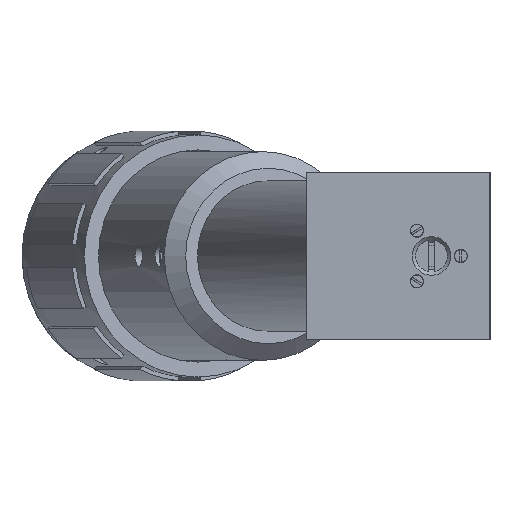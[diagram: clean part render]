
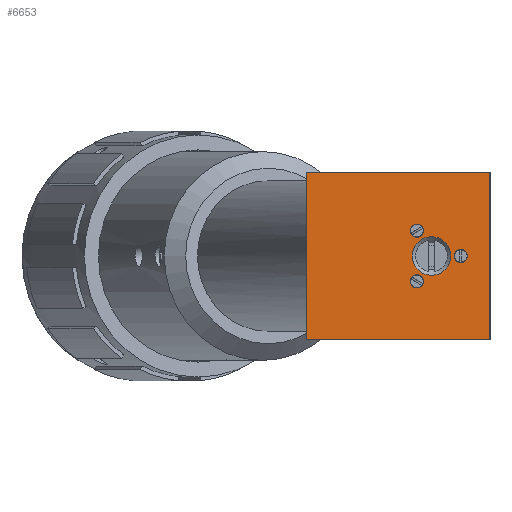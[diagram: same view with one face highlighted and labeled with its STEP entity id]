
A CAD part, left-side view. The second image highlights one B-rep face of the part: STEP entity #6653.
In plain terms, the highlighted planar face has unit normal (-1, 0, 0).
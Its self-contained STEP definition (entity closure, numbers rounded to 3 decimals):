
#6360=CARTESIAN_POINT('',(-36.125,1.139,20.0));
#6361=VERTEX_POINT('',#6360);
#6362=CARTESIAN_POINT('',(-36.125,23.139,20.0));
#6363=VERTEX_POINT('',#6362);
#6364=CARTESIAN_POINT('',(-36.125,1.139,20.0));
#6365=DIRECTION('',(0.0,1.0,0.0));
#6366=VECTOR('',#6365,22.0);
#6367=LINE('',#6364,#6366);
#6368=EDGE_CURVE('',#6361,#6363,#6367,.T.);
#6414=CARTESIAN_POINT('',(-36.125,1.139,0.0));
#6415=VERTEX_POINT('',#6414);
#6424=CARTESIAN_POINT('',(-36.125,23.139,0.0));
#6425=VERTEX_POINT('',#6424);
#6426=CARTESIAN_POINT('',(-36.125,23.139,0.0));
#6427=DIRECTION('',(0.0,-1.0,0.0));
#6428=VECTOR('',#6427,22.0);
#6429=LINE('',#6426,#6428);
#6430=EDGE_CURVE('',#6425,#6415,#6429,.T.);
#6485=CARTESIAN_POINT('',(-36.125,1.139,0.0));
#6486=DIRECTION('',(0.0,0.0,1.0));
#6487=VECTOR('',#6486,20.0);
#6488=LINE('',#6485,#6487);
#6489=EDGE_CURVE('',#6415,#6361,#6488,.T.);
#6578=CARTESIAN_POINT('',(-36.125,23.139,0.0));
#6579=DIRECTION('',(0.0,0.0,1.0));
#6580=VECTOR('',#6579,20.0);
#6581=LINE('',#6578,#6580);
#6582=EDGE_CURVE('',#6425,#6363,#6581,.T.);
#6598=CARTESIAN_POINT('',(-36.125,1.139,0.0));
#6599=DIRECTION('',(-1.0,0.0,0.0));
#6600=DIRECTION('',(0.0,0.0,1.0));
#6601=AXIS2_PLACEMENT_3D('',#6598,#6599,#6600);
#6602=PLANE('',#6601);
#6603=ORIENTED_EDGE('',*,*,#6368,.T.);
#6604=ORIENTED_EDGE('',*,*,#6582,.F.);
#6605=ORIENTED_EDGE('',*,*,#6430,.T.);
#6606=ORIENTED_EDGE('',*,*,#6489,.T.);
#6607=EDGE_LOOP('',(#6603,#6604,#6605,#6606));
#6608=FACE_OUTER_BOUND('',#6607,.T.);
#6609=CARTESIAN_POINT('',(-36.125,8.139,7.7));
#6610=VERTEX_POINT('',#6609);
#6611=CARTESIAN_POINT('',(-36.125,8.139,10.));
#6612=DIRECTION('',(1.0,0.0,0.0));
#6613=DIRECTION('',(0.0,0.0,-1.0));
#6614=AXIS2_PLACEMENT_3D('',#6611,#6612,#6613);
#6615=CIRCLE('',#6614,2.3);
#6616=EDGE_CURVE('',#6610,#6610,#6615,.T.);
#6617=ORIENTED_EDGE('',*,*,#6616,.T.);
#6618=EDGE_LOOP('',(#6617));
#6619=FACE_BOUND('',#6618,.T.);
#6620=CARTESIAN_POINT('',(-36.125,9.889,12.248));
#6621=VERTEX_POINT('',#6620);
#6622=CARTESIAN_POINT('',(-36.125,9.889,13.031));
#6623=DIRECTION('',(1.0,0.0,0.0));
#6624=DIRECTION('',(0.0,0.0,-1.0));
#6625=AXIS2_PLACEMENT_3D('',#6622,#6623,#6624);
#6626=CIRCLE('',#6625,0.784);
#6627=EDGE_CURVE('',#6621,#6621,#6626,.T.);
#6628=ORIENTED_EDGE('',*,*,#6627,.T.);
#6629=EDGE_LOOP('',(#6628));
#6630=FACE_BOUND('',#6629,.T.);
#6631=CARTESIAN_POINT('',(-36.125,4.639,9.216));
#6632=VERTEX_POINT('',#6631);
#6633=CARTESIAN_POINT('',(-36.125,4.639,10.));
#6634=DIRECTION('',(1.0,0.0,0.0));
#6635=DIRECTION('',(0.0,0.0,-1.0));
#6636=AXIS2_PLACEMENT_3D('',#6633,#6634,#6635);
#6637=CIRCLE('',#6636,0.784);
#6638=EDGE_CURVE('',#6632,#6632,#6637,.T.);
#6639=ORIENTED_EDGE('',*,*,#6638,.T.);
#6640=EDGE_LOOP('',(#6639));
#6641=FACE_BOUND('',#6640,.T.);
#6642=CARTESIAN_POINT('',(-36.125,9.889,6.185));
#6643=VERTEX_POINT('',#6642);
#6644=CARTESIAN_POINT('',(-36.125,9.889,6.969));
#6645=DIRECTION('',(1.0,0.0,0.0));
#6646=DIRECTION('',(0.0,0.0,-1.0));
#6647=AXIS2_PLACEMENT_3D('',#6644,#6645,#6646);
#6648=CIRCLE('',#6647,0.784);
#6649=EDGE_CURVE('',#6643,#6643,#6648,.T.);
#6650=ORIENTED_EDGE('',*,*,#6649,.T.);
#6651=EDGE_LOOP('',(#6650));
#6652=FACE_BOUND('',#6651,.T.);
#6653=ADVANCED_FACE('',(#6608,#6619,#6630,#6641,#6652),#6602,.T.);
